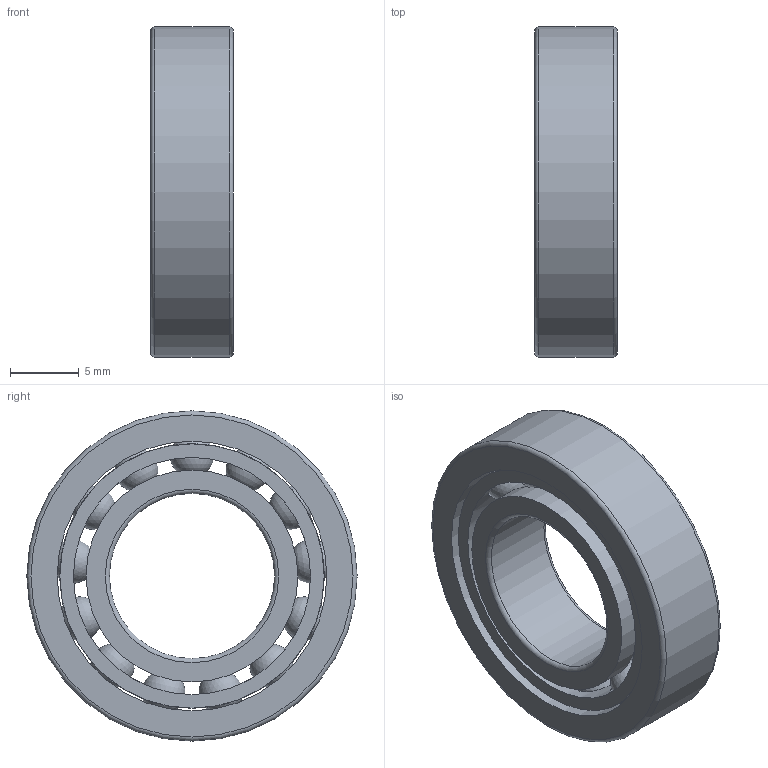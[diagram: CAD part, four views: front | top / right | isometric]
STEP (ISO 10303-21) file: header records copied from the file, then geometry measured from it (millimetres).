
FILE_DESCRIPTION(/* description */ (''),/* implementation_level */ '2;1');
FILE_NAME(/* name */ 'SM_61901_TA.step',/* time_stamp */ '2013-03-11T11:35:15+01:00',/* author */ ('Marian'),/* organization */ ('GMN'),/* preprocessor_version */ 'ST-DEVELOPER v11',/* originating_system */ 'SIEMENS UGS NX 6.0',/* authorisation */ '');
FILE_SCHEMA (('CONFIG_CONTROL_DESIGN'));
Length unit declared in the file: millimetre
Products named in the file (1): SM_61901_TA
Bounding box: 6 x 24 x 24 mm (x, y, z)
Volume: 1553.4 mm3; surface area: 2753.6 mm2
Topology: 16 solids, 16 shells, 46 faces, 112 edges, 72 vertices
Faces by surface type: cylinder 20, sphere 13, torus 6, plane 6, cone 1
Full cylindrical faces by diameter (mm): 3.375 x13, 12 x1, 15.4 x2, 17.235 x1, 19.2 x1, 19.6 x1, 24 x1
Entity records: 2500 total; most frequent: CARTESIAN_POINT 1634, DIRECTION 134, FACE_BOUND 105, EDGE_LOOP 92, ORIENTED_EDGE 92, AXIS2_PLACEMENT_3D 67, VERTEX_POINT 59, EDGE_CURVE 46
